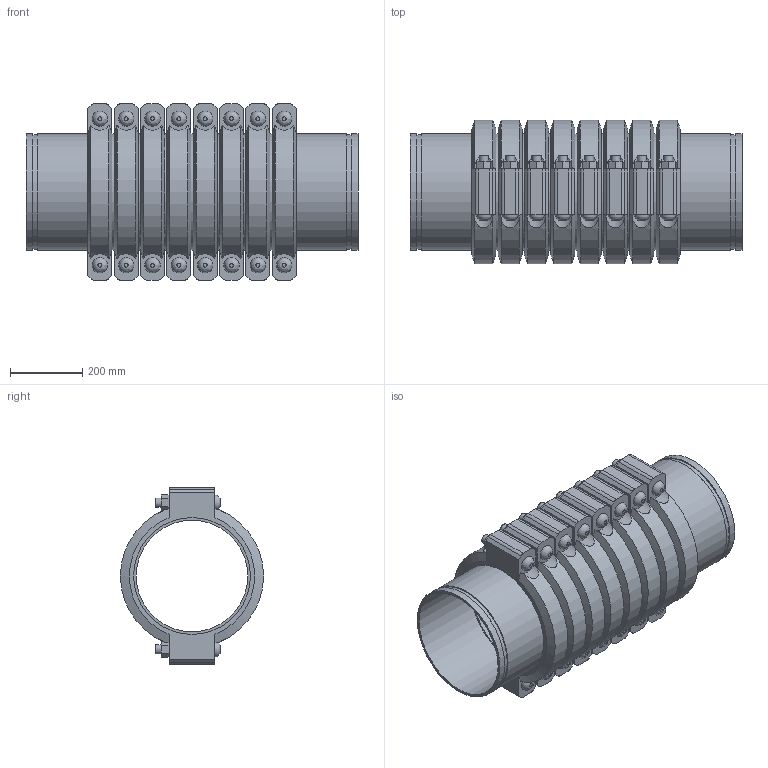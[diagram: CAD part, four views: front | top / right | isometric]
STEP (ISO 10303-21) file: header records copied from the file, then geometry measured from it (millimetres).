
FILE_DESCRIPTION(/* description */ ('VIC SS EXPANSION JOINT 8 COUPLINGS NEUTRAL STYLE 155P (OGS) (POTABLE WATER) ','CAx-IF Rec.Pracs.---Representation and Presentation of Product Manufacturing Information (PMI)---4.0---2014-10-13'),/* implementation_level */ '2;1');
FILE_NAME(/* name */ 'C:\Users\kkamble\AppData\Roaming\Autodesk\ApplicationPlugins\Victaulic.Temp\A279\Victaulic_SS_Expansion Joint_Neutral_8 Couplings_Style 155P (OGS)-Potable Water_8 Coup_Neut_12 (300).stp',/* time_stamp */ '2021-07-16T16:39:03+05:00',/* author */ ('kkamble'),/* organization */ ('Victaulic'),/* preprocessor_version */ 'ST-DEVELOPER v17.2',/* originating_system */ 'Autodesk Inventor 2019',/* authorisation */ '');
FILE_SCHEMA (('AP242_MANAGED_MODEL_BASED_3D_ENGINEERING_MIM_LF { 1 0 10303 442 1 1 4 }'));
Length unit declared in the file: inch
Products named in the file (4): 155P-12.0; Nipple-12.0; Nipple-12.0_1; 077-12.0
Assembly tree (17 placements, depth 2):
  155P-12.0
    Nipple-12.0  x2
    Nipple-12.0_1  x7
    077-12.0  x8
Bounding box: 920.75 x 397 x 488.95 mm (x, y, z)
Volume: 32974906.7 mm3; surface area: 4566208.4 mm2
Topology: 17 solids, 33 shells, 596 faces, 1430 edges, 1000 vertices
Faces by surface type: plane 342, cylinder 206, cone 32, bspline 16
Full cylindrical faces by diameter (mm): 25.4 x32, 27.432 x16, 309.677 x9, 314.96 x8, 318.287 x18, 323.85 x43
Entity records: 3105 total; most frequent: CARTESIAN_POINT 665, DIRECTION 489, ORIENTED_EDGE 410, EDGE_CURVE 205, AXIS2_PLACEMENT_3D 200, VERTEX_POINT 146, EDGE_LOOP 111, CIRCLE 96
